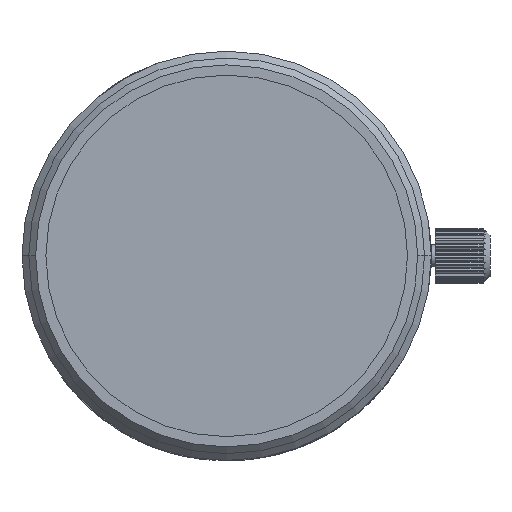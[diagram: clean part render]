
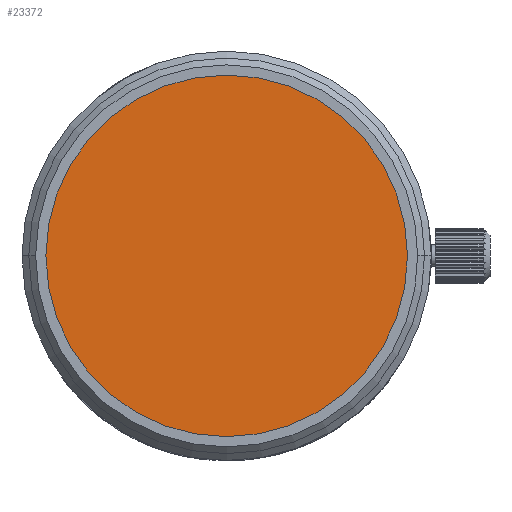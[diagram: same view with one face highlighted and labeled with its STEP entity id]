
A CAD part, left-side view. The second image highlights one B-rep face of the part: STEP entity #23372.
In plain terms, the highlighted planar face has unit normal (-1, 0, 0).
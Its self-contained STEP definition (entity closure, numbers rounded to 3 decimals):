
#3520=CARTESIAN_POINT('',(-1.89,0.,0.));
#3521=DIRECTION('',(1.,0.,0.));
#3522=DIRECTION('',(0.,-1.,0.));
#3523=AXIS2_PLACEMENT_3D('',#3520,#3521,#3522);
#3525=CARTESIAN_POINT('',(-1.89,0.,0.));
#3526=DIRECTION('',(1.,0.,0.));
#3527=DIRECTION('',(0.,1.,0.));
#3528=AXIS2_PLACEMENT_3D('',#3525,#3526,#3527);
#19922=CARTESIAN_POINT('',(-1.89,13.75,0.));
#19923=VERTEX_POINT('',#19922);
#19924=CARTESIAN_POINT('',(-1.89,-13.75,0.));
#19925=VERTEX_POINT('',#19924);
#23363=CARTESIAN_POINT('',(-1.89,0.,0.));
#23364=DIRECTION('',(-1.,0.,0.));
#23365=DIRECTION('',(0.,1.,0.));
#23366=AXIS2_PLACEMENT_3D('',#23363,#23364,#23365);
#23367=PLANE('',#23366);
#23368=ORIENTED_EDGE('',*,*,#23356,.T.);
#23369=ORIENTED_EDGE('',*,*,#23345,.T.);
#23370=EDGE_LOOP('',(#23368,#23369));
#23371=FACE_OUTER_BOUND('',#23370,.F.);
#3524=CIRCLE('',#3523,13.75);
#3529=CIRCLE('',#3528,13.75);
#23345=EDGE_CURVE('',#19923,#19925,#3529,.T.);
#23356=EDGE_CURVE('',#19925,#19923,#3524,.T.);
#23372=ADVANCED_FACE('',(#23371),#23367,.T.);
